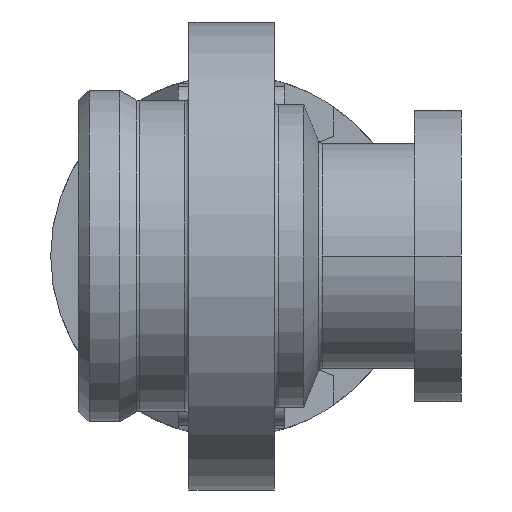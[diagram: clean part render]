
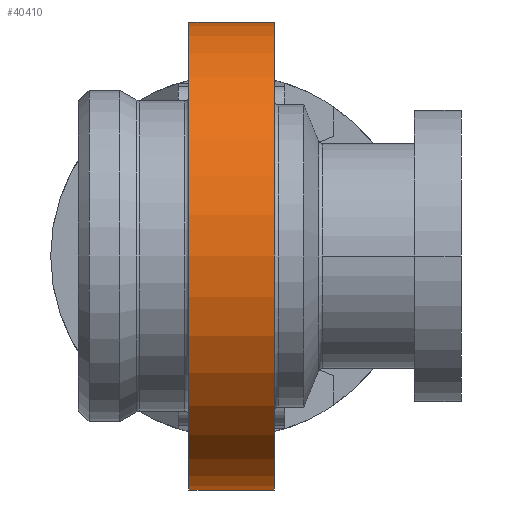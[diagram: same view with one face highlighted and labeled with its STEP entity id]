
A CAD part, front view. The second image highlights one B-rep face of the part: STEP entity #40410.
In plain terms, the highlighted cylindrical face has radius 55 mm (diameter 110 mm), a partial arc.
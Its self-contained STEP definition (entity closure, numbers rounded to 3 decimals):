
#1250=CARTESIAN_POINT('',(67.018,-10.735,0.));
#1260=DIRECTION('',(1.,0.,0.));
#1270=VECTOR('',#1260,1.);
#1280=LINE('',#1250,#1270);
#1290=CARTESIAN_POINT('',(62.018,-10.735,0.));
#1300=VERTEX_POINT('',#1290);
#1310=CARTESIAN_POINT('',(82.018,-10.735,0.));
#1320=VERTEX_POINT('',#1310);
#1330=EDGE_CURVE('',#1300,#1320,#1280,.T.);
#1350=CARTESIAN_POINT('',(62.018,44.265,0.));
#1360=DIRECTION('',(1.,0.,0.));
#1370=DIRECTION('',(0.,-1.,0.));
#1380=AXIS2_PLACEMENT_3D('',#1350,#1360,#1370);
#1390=CIRCLE('',#1380,55.);
#4550=CARTESIAN_POINT('',(82.018,44.265,0.));
#4560=DIRECTION('',(-1.,0.,0.));
#4570=DIRECTION('',(0.,0.,-1.));
#4580=AXIS2_PLACEMENT_3D('',#4550,#4560,#4570);
#4590=CIRCLE('',#4580,55.);
#5880=CARTESIAN_POINT('',(62.018,99.265,0.));
#5890=VERTEX_POINT('',#5880);
#5900=EDGE_CURVE('',#1300,#5890,#1390,.T.);
#8750=CARTESIAN_POINT('',(82.018,99.265,0.));
#8760=VERTEX_POINT('',#8750);
#8790=EDGE_CURVE('',#8760,#1320,#4590,.T.);
#40250=CARTESIAN_POINT('',(67.018,44.265,0.));
#40260=DIRECTION('',(1.,0.,0.));
#40270=DIRECTION('',(0.,-1.,0.));
#40280=AXIS2_PLACEMENT_3D('',#40250,#40260,#40270);
#40290=CYLINDRICAL_SURFACE('',#40280,55.);
#40300=ORIENTED_EDGE('',*,*,#8790,.T.);
#40310=CARTESIAN_POINT('',(67.018,99.265,0.));
#40320=DIRECTION('',(1.,0.,0.));
#40330=VECTOR('',#40320,1.);
#40340=LINE('',#40310,#40330);
#40350=EDGE_CURVE('',#5890,#8760,#40340,.T.);
#40360=ORIENTED_EDGE('',*,*,#40350,.T.);
#40370=ORIENTED_EDGE('',*,*,#5900,.T.);
#40380=ORIENTED_EDGE('',*,*,#1330,.F.);
#40390=EDGE_LOOP('',(#40380,#40370,#40360,#40300));
#40400=FACE_OUTER_BOUND('',#40390,.T.);
#40410=ADVANCED_FACE('',(#40400),#40290,.T.);
